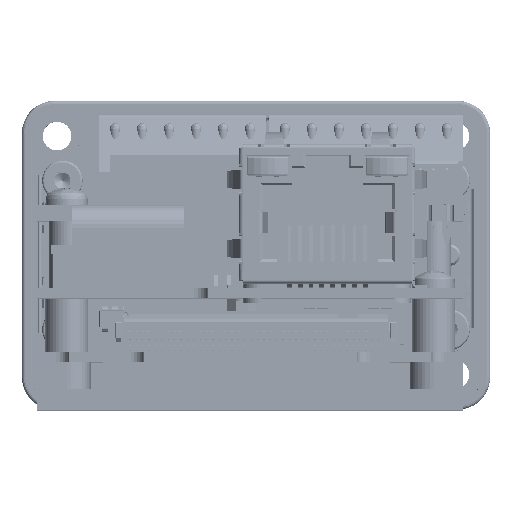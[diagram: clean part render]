
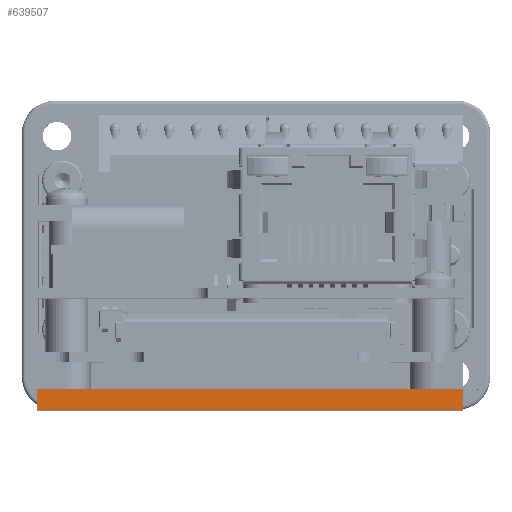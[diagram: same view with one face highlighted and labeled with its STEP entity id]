
A CAD part, top view. The second image highlights one B-rep face of the part: STEP entity #639507.
In plain terms, the highlighted planar face has unit normal (0, 0, 1).
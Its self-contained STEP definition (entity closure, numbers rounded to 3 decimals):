
#11592 = VECTOR ( 'NONE', #527039, 1000. ) ;
#16175 = LINE ( 'NONE', #720889, #750956 ) ;
#19659 = DIRECTION ( 'NONE',  ( 1., 0., 0. ) ) ;
#37517 = LINE ( 'NONE', #926926, #11592 ) ;
#142292 = CARTESIAN_POINT ( 'NONE',  ( 20., -14.718, 54.179 ) ) ;
#167307 = PLANE ( 'NONE',  #276118 ) ;
#209670 = ORIENTED_EDGE ( 'NONE', *, *, #266397, .F. ) ;
#266397 = EDGE_CURVE ( 'NONE', #841289, #777348, #800217, .T. ) ;
#276118 = AXIS2_PLACEMENT_3D ( 'NONE', #333067, #826188, #329513 ) ;
#313847 = DIRECTION ( 'NONE',  ( 1., 0., 0. ) ) ;
#329513 = DIRECTION ( 'NONE',  ( -1., 0., 0. ) ) ;
#333067 = CARTESIAN_POINT ( 'NONE',  ( 20., -14.718, 54.179 ) ) ;
#381574 = LINE ( 'NONE', #513017, #974733 ) ;
#398897 = EDGE_CURVE ( 'NONE', #653130, #777348, #16175, .T. ) ;
#414320 = ORIENTED_EDGE ( 'NONE', *, *, #876869, .F. ) ;
#513017 = CARTESIAN_POINT ( 'NONE',  ( 20., -12.718, 54.179 ) ) ;
#519671 = ORIENTED_EDGE ( 'NONE', *, *, #997097, .F. ) ;
#521941 = ORIENTED_EDGE ( 'NONE', *, *, #398897, .T. ) ;
#527039 = DIRECTION ( 'NONE',  ( 0., 1., 0. ) ) ;
#639507 = ADVANCED_FACE ( 'NONE', ( #896389 ), #167307, .F. ) ;
#642527 = CARTESIAN_POINT ( 'NONE',  ( -20., -14.718, 54.179 ) ) ;
#653130 = VERTEX_POINT ( 'NONE', #642527 ) ;
#673884 = DIRECTION ( 'NONE',  ( 0., -1., 0. ) ) ;
#676216 = CARTESIAN_POINT ( 'NONE',  ( -20., -12.718, 54.179 ) ) ;
#720889 = CARTESIAN_POINT ( 'NONE',  ( -20., -14.718, 54.179 ) ) ;
#742391 = CARTESIAN_POINT ( 'NONE',  ( 20., -14.718, 54.179 ) ) ;
#750956 = VECTOR ( 'NONE', #313847, 1000. ) ;
#761100 = VECTOR ( 'NONE', #673884, 1000. ) ;
#777348 = VERTEX_POINT ( 'NONE', #142292 ) ;
#800217 = LINE ( 'NONE', #742391, #761100 ) ;
#826188 = DIRECTION ( 'NONE',  ( 0., 0., -1. ) ) ;
#841289 = VERTEX_POINT ( 'NONE', #976091 ) ;
#872118 = EDGE_LOOP ( 'NONE', ( #519671, #521941, #209670, #414320 ) ) ;
#876869 = EDGE_CURVE ( 'NONE', #902465, #841289, #381574, .T. ) ;
#896389 = FACE_OUTER_BOUND ( 'NONE', #872118, .T. ) ;
#902465 = VERTEX_POINT ( 'NONE', #676216 ) ;
#926926 = CARTESIAN_POINT ( 'NONE',  ( -20., -14.718, 54.179 ) ) ;
#974733 = VECTOR ( 'NONE', #19659, 1000. ) ;
#976091 = CARTESIAN_POINT ( 'NONE',  ( 20., -12.718, 54.179 ) ) ;
#997097 = EDGE_CURVE ( 'NONE', #653130, #902465, #37517, .T. ) ;
